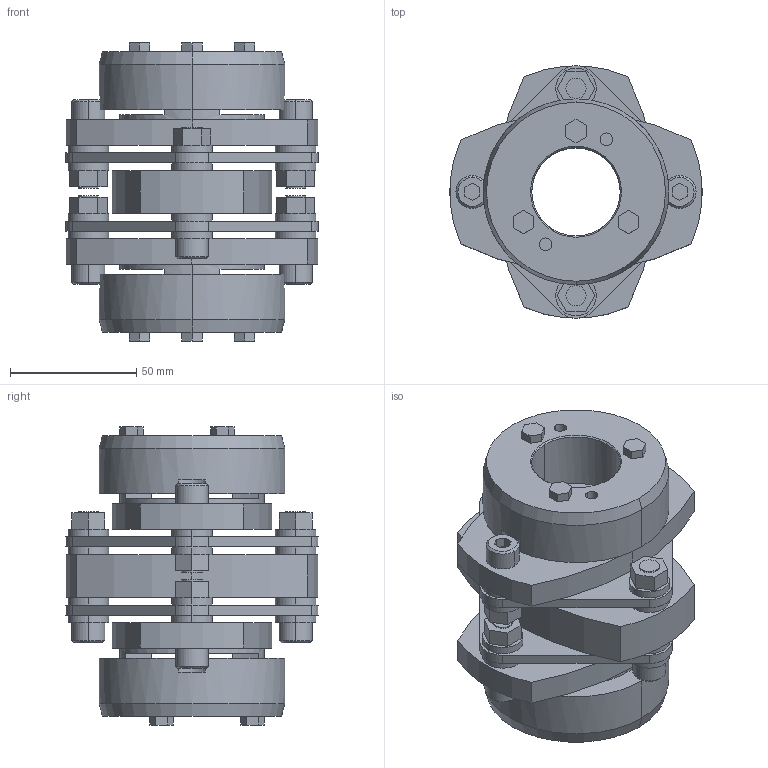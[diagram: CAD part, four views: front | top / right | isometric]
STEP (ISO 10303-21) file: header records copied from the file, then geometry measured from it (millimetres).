
FILE_DESCRIPTION((''),'2;1');
FILE_NAME('LCD-100T7-35×35.stp','2011-09-09T09:02:07',(''),(''),'AutoCAD STEP 2000i','AutoCAD 2000i',', , ');
FILE_SCHEMA(('CONFIG_CONTROL_DESIGN'));
Length unit declared in the file: millimetre
Products named in the file (9): LCD-100T7-35×35; 忣兜1; LC100T7-T035-1; LC100T7-T035; LC100T7-T030; LC100T7-T025; LC100T7-T022-1; LC100T7-T022; LCD100-ITA
Assembly tree (8 placements, depth 2):
  LCD-100T7-35×35
    忣兜1
    LC100T7-T035-1
    LC100T7-T035
    LC100T7-T030
    LC100T7-T025
    LC100T7-T022-1
    LC100T7-T022
    LCD100-ITA
Bounding box: 100 x 99.93 x 118 mm (x, y, z)
Volume: 369477.5 mm3; surface area: 93328.1 mm2
Topology: 1 solids, 1 shells, 328 faces, 804 edges, 528 vertices
Faces by surface type: plane 180, cylinder 124, cone 24
Entity records: 9971 total; most frequent: DIRECTION 1774, CARTESIAN_POINT 1669, ORIENTED_EDGE 1608, EDGE_CURVE 804, AXIS2_PLACEMENT_3D 633, VERTEX_POINT 528, VECTOR 508, LINE 508
